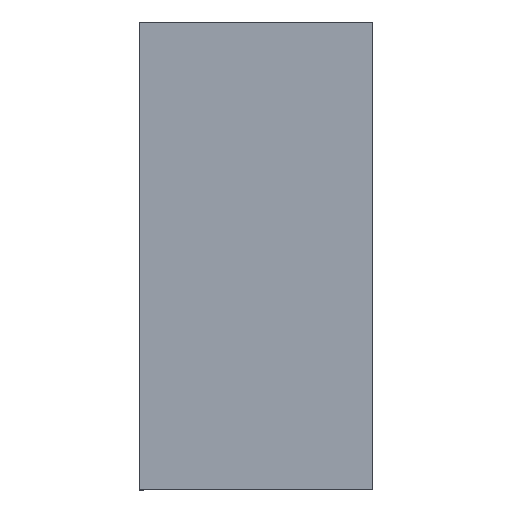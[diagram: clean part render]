
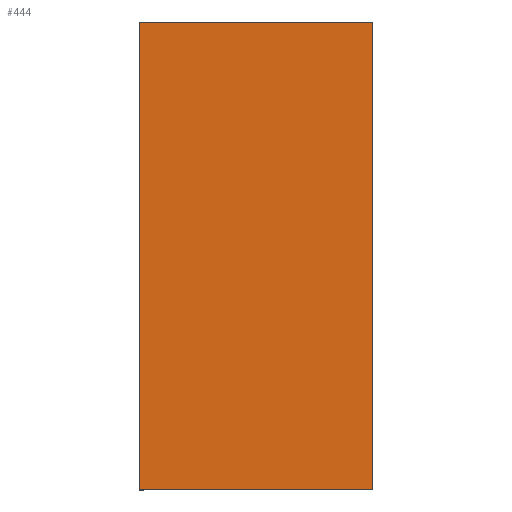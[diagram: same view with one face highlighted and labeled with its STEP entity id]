
A CAD part, left-side view. The second image highlights one B-rep face of the part: STEP entity #444.
In plain terms, the highlighted planar face has unit normal (-1, 0, 0).
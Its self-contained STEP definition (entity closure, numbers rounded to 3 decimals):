
#8 = CARTESIAN_POINT ( 'NONE',  ( -250., 12., 48. ) ) ;
#26 = DIRECTION ( 'NONE',  ( 1., 0., 0. ) ) ;
#34 = DIRECTION ( 'NONE',  ( 0., -1., 0. ) ) ;
#44 = VECTOR ( 'NONE', #476, 1000. ) ;
#73 = FACE_OUTER_BOUND ( 'NONE', #330, .T. ) ;
#75 = ORIENTED_EDGE ( 'NONE', *, *, #356, .T. ) ;
#77 = CARTESIAN_POINT ( 'NONE',  ( -250., -12., 48. ) ) ;
#90 = CARTESIAN_POINT ( 'NONE',  ( -250., -12., 48. ) ) ;
#101 = LINE ( 'NONE', #455, #509 ) ;
#105 = ORIENTED_EDGE ( 'NONE', *, *, #549, .T. ) ;
#138 = VERTEX_POINT ( 'NONE', #174 ) ;
#154 = VECTOR ( 'NONE', #34, 1000. ) ;
#174 = CARTESIAN_POINT ( 'NONE',  ( -250., 12., 0. ) ) ;
#230 = LINE ( 'NONE', #8, #298 ) ;
#249 = LINE ( 'NONE', #433, #44 ) ;
#254 = EDGE_CURVE ( 'NONE', #489, #477, #101, .T. ) ;
#258 = ORIENTED_EDGE ( 'NONE', *, *, #451, .F. ) ;
#294 = CARTESIAN_POINT ( 'NONE',  ( -250., 12., 48. ) ) ;
#298 = VECTOR ( 'NONE', #360, 1000. ) ;
#330 = EDGE_LOOP ( 'NONE', ( #75, #480, #258, #105 ) ) ;
#332 = LINE ( 'NONE', #77, #154 ) ;
#337 = AXIS2_PLACEMENT_3D ( 'NONE', #525, #26, #423 ) ;
#356 = EDGE_CURVE ( 'NONE', #138, #477, #249, .T. ) ;
#360 = DIRECTION ( 'NONE',  ( 0., 0., -1. ) ) ;
#369 = DIRECTION ( 'NONE',  ( 0., 0., -1. ) ) ;
#391 = VERTEX_POINT ( 'NONE', #294 ) ;
#396 = PLANE ( 'NONE',  #337 ) ;
#423 = DIRECTION ( 'NONE',  ( 0., 0., -1. ) ) ;
#433 = CARTESIAN_POINT ( 'NONE',  ( -250., -12., 0. ) ) ;
#444 = ADVANCED_FACE ( 'NONE', ( #73 ), #396, .F. ) ;
#451 = EDGE_CURVE ( 'NONE', #391, #489, #332, .T. ) ;
#455 = CARTESIAN_POINT ( 'NONE',  ( -250., -12., 48. ) ) ;
#472 = CARTESIAN_POINT ( 'NONE',  ( -250., -12., 0. ) ) ;
#476 = DIRECTION ( 'NONE',  ( 0., -1., 0. ) ) ;
#477 = VERTEX_POINT ( 'NONE', #472 ) ;
#480 = ORIENTED_EDGE ( 'NONE', *, *, #254, .F. ) ;
#489 = VERTEX_POINT ( 'NONE', #90 ) ;
#509 = VECTOR ( 'NONE', #369, 1000. ) ;
#525 = CARTESIAN_POINT ( 'NONE',  ( -250., -12., 48. ) ) ;
#549 = EDGE_CURVE ( 'NONE', #391, #138, #230, .T. ) ;
